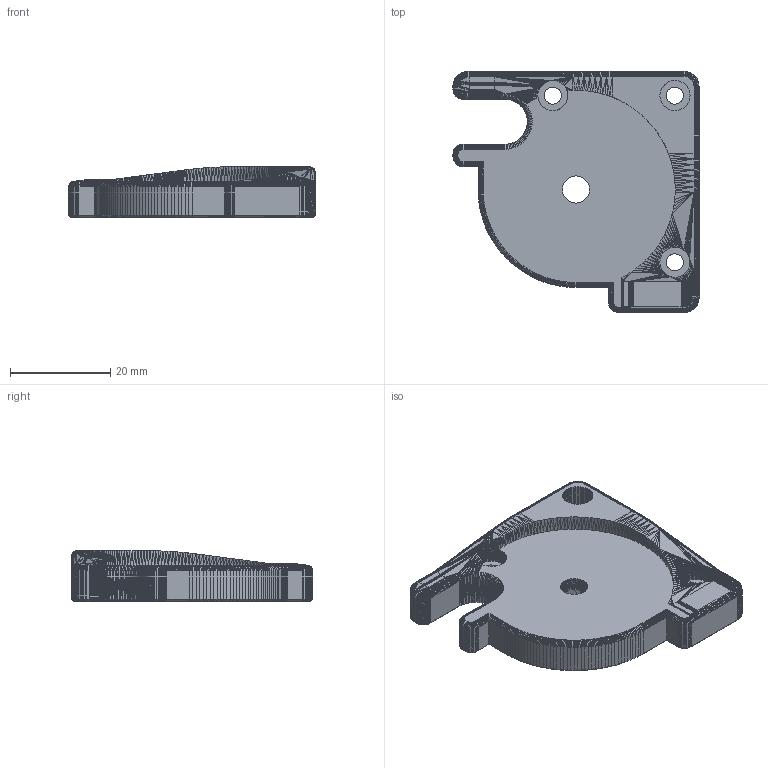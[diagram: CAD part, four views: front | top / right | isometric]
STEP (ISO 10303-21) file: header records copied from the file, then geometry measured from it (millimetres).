
FILE_DESCRIPTION(('Open CASCADE Model'),'2;1');
FILE_NAME('Open CASCADE Shape Model','2026-11-22T23:46:14',('Author'),( 'Open CASCADE'),'Open CASCADE STEP processor 8.0','Open CASCADE 8.0' ,'Unknown');
FILE_SCHEMA(('AUTOMOTIVE_DESIGN { 1 0 10303 214 1 1 1 1 }'));
Products named in the file (1): [a]_z_drive_baseplate_a_plus5mm_x2
Bounding box: 49 x 48 x 10 mm (x, y, z)
Volume: 13261.8 mm3; surface area: 5786.9 mm2
Topology: 1 solids, 1 shells, 8891 faces, 14428 edges, 5540 vertices
Faces by surface type: plane 8891
Entity records: 370804 total; most frequent: DIRECTION 61068, CARTESIAN_POINT 57716, LINE 43284, VECTOR 43284, ORIENTED_EDGE 28856, PCURVE 28856, DEFINITIONAL_REPRESENTATION 28856, EDGE_CURVE 14428
